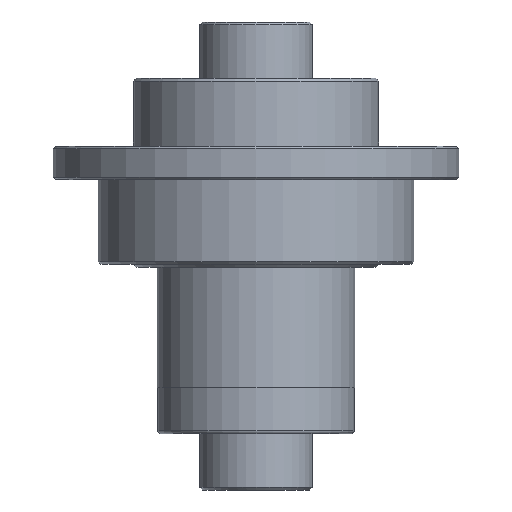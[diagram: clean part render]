
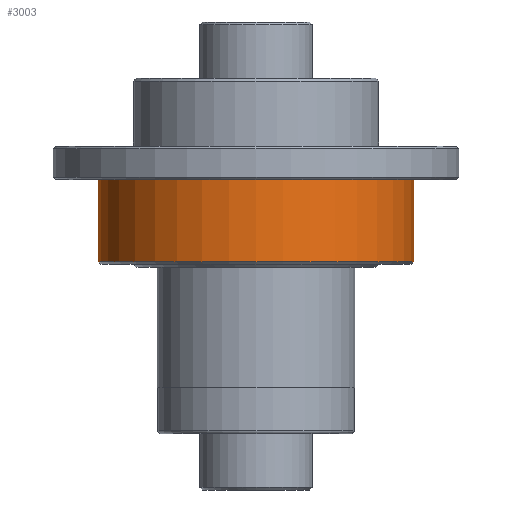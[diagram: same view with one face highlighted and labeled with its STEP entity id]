
A CAD part, front view. The second image highlights one B-rep face of the part: STEP entity #3003.
In plain terms, the highlighted cylindrical face has radius 27.998 mm (diameter 55.996 mm), a partial arc.
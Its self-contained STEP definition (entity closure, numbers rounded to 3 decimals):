
#50 = CARTESIAN_POINT ( 'NONE',  ( 27.998, 0., -18. ) ) ;
#100 = ORIENTED_EDGE ( 'NONE', *, *, #1862, .T. ) ;
#165 = CARTESIAN_POINT ( 'NONE',  ( 27.998, 0., 2. ) ) ;
#177 = LINE ( 'NONE', #165, #1581 ) ;
#221 = VERTEX_POINT ( 'NONE', #50 ) ;
#225 = EDGE_LOOP ( 'NONE', ( #856, #2226, #100, #2257 ) ) ;
#388 = CARTESIAN_POINT ( 'NONE',  ( -27.998, 0., 2. ) ) ;
#588 = CARTESIAN_POINT ( 'NONE',  ( -27.998, 0., -18. ) ) ;
#609 = LINE ( 'NONE', #388, #2426 ) ;
#652 = VERTEX_POINT ( 'NONE', #2046 ) ;
#805 = VERTEX_POINT ( 'NONE', #588 ) ;
#856 = ORIENTED_EDGE ( 'NONE', *, *, #1797, .F. ) ;
#995 = AXIS2_PLACEMENT_3D ( 'NONE', #1348, #1811, #2310 ) ;
#1158 = VERTEX_POINT ( 'NONE', #1780 ) ;
#1288 = DIRECTION ( 'NONE',  ( 0., 0., 1. ) ) ;
#1348 = CARTESIAN_POINT ( 'NONE',  ( 0., 0., 2. ) ) ;
#1525 = DIRECTION ( 'NONE',  ( 0., 0., 1. ) ) ;
#1581 = VECTOR ( 'NONE', #3068, 1000. ) ;
#1593 = AXIS2_PLACEMENT_3D ( 'NONE', #3119, #1525, #3367 ) ;
#1645 = AXIS2_PLACEMENT_3D ( 'NONE', #2814, #1288, #3101 ) ;
#1780 = CARTESIAN_POINT ( 'NONE',  ( -27.998, 0., -32.5 ) ) ;
#1797 = EDGE_CURVE ( 'NONE', #1158, #805, #609, .T. ) ;
#1811 = DIRECTION ( 'NONE',  ( 0., 0., 1. ) ) ;
#1862 = EDGE_CURVE ( 'NONE', #652, #221, #177, .T. ) ;
#2046 = CARTESIAN_POINT ( 'NONE',  ( 27.998, 0., -32.5 ) ) ;
#2170 = DIRECTION ( 'NONE',  ( 0., 0., 1. ) ) ;
#2226 = ORIENTED_EDGE ( 'NONE', *, *, #2884, .T. ) ;
#2257 = ORIENTED_EDGE ( 'NONE', *, *, #2911, .F. ) ;
#2310 = DIRECTION ( 'NONE',  ( 1., 0., 0. ) ) ;
#2426 = VECTOR ( 'NONE', #2170, 1000. ) ;
#2695 = CYLINDRICAL_SURFACE ( 'NONE', #995, 27.998 ) ;
#2730 = FACE_OUTER_BOUND ( 'NONE', #225, .T. ) ;
#2814 = CARTESIAN_POINT ( 'NONE',  ( 0., 0., -32.5 ) ) ;
#2840 = CIRCLE ( 'NONE', #1593, 27.998 ) ;
#2875 = CIRCLE ( 'NONE', #1645, 27.998 ) ;
#2884 = EDGE_CURVE ( 'NONE', #1158, #652, #2875, .T. ) ;
#2911 = EDGE_CURVE ( 'NONE', #805, #221, #2840, .T. ) ;
#3003 = ADVANCED_FACE ( 'NONE', ( #2730 ), #2695, .T. ) ;
#3068 = DIRECTION ( 'NONE',  ( 0., 0., 1. ) ) ;
#3101 = DIRECTION ( 'NONE',  ( 1., 0., 0. ) ) ;
#3119 = CARTESIAN_POINT ( 'NONE',  ( 0., 0., -18. ) ) ;
#3367 = DIRECTION ( 'NONE',  ( 1., 0., 0. ) ) ;
